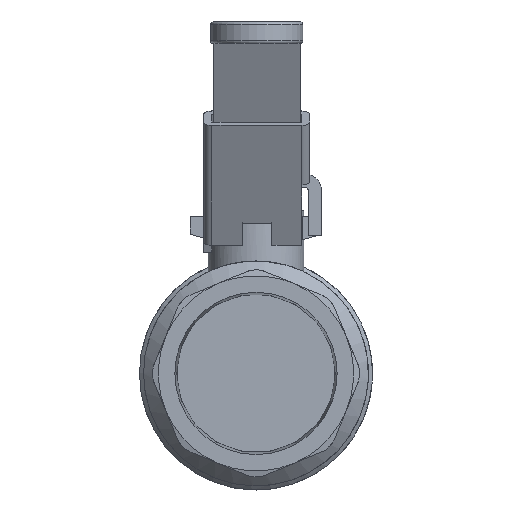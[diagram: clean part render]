
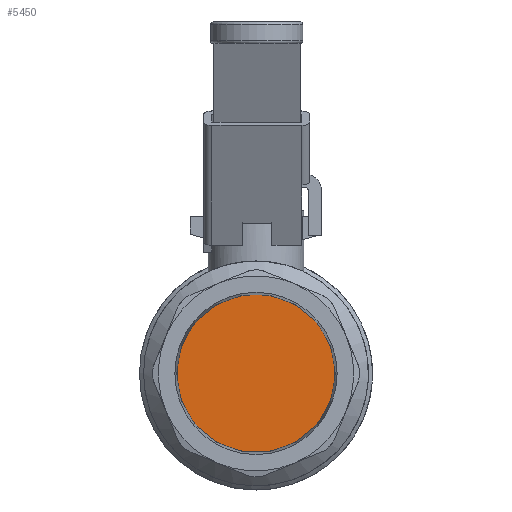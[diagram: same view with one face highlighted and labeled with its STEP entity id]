
A CAD part, left-side view. The second image highlights one B-rep face of the part: STEP entity #5450.
In plain terms, the highlighted planar face has unit normal (-1, 0, 0).
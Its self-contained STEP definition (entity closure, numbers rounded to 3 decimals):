
#5450 = ADVANCED_FACE('',(#5451),#5464,.T.);
#5451 = FACE_BOUND('',#5452,.T.);
#5452 = EDGE_LOOP('',(#5453));
#5453 = ORIENTED_EDGE('',*,*,#5454,.F.);
#5454 = EDGE_CURVE('',#5455,#5455,#5457,.T.);
#5455 = VERTEX_POINT('',#5456);
#5456 = CARTESIAN_POINT('',(0.681,0.77,0.));
#5457 = SURFACE_CURVE('',#5458,(#5463,#5479),.PCURVE_S1.);
#5458 = CIRCLE('',#5459,0.77);
#5459 = AXIS2_PLACEMENT_3D('',#5460,#5461,#5462);
#5460 = CARTESIAN_POINT('',(0.681,0.,0.));
#5461 = DIRECTION('',(1.,0.,0.));
#5462 = DIRECTION('',(-0.,1.,0.));
#5463 = PCURVE('',#5464,#5469);
#5464 = PLANE('',#5465);
#5465 = AXIS2_PLACEMENT_3D('',#5466,#5467,#5468);
#5466 = CARTESIAN_POINT('',(0.681,0.385,0.));
#5467 = DIRECTION('',(-1.,-0.,-0.));
#5468 = DIRECTION('',(-0.,1.,-0.));
#5469 = DEFINITIONAL_REPRESENTATION('',(#5470),#5478);
#5470 = ( BOUNDED_CURVE() B_SPLINE_CURVE(2,(#5471,#5472,#5473,#5474,
#5475,#5476,#5477),.UNSPECIFIED.,.T.,.F.) B_SPLINE_CURVE_WITH_KNOTS((1,2
    ,2,2,2,1),(-2.094,0.,2.094,4.189,
6.283,8.378),.UNSPECIFIED.) CURVE() 
GEOMETRIC_REPRESENTATION_ITEM() RATIONAL_B_SPLINE_CURVE((1.,0.5,1.,0.5,
1.,0.5,1.)) REPRESENTATION_ITEM('') );
#5471 = CARTESIAN_POINT('',(0.385,0.));
#5472 = CARTESIAN_POINT('',(0.385,-1.334));
#5473 = CARTESIAN_POINT('',(-0.77,-0.667));
#5474 = CARTESIAN_POINT('',(-1.926,0.));
#5475 = CARTESIAN_POINT('',(-0.77,0.667));
#5476 = CARTESIAN_POINT('',(0.385,1.334));
#5477 = CARTESIAN_POINT('',(0.385,0.));
#5478 = ( GEOMETRIC_REPRESENTATION_CONTEXT(2) 
PARAMETRIC_REPRESENTATION_CONTEXT() REPRESENTATION_CONTEXT('2D SPACE',''
  ) );
#5479 = PCURVE('',#5480,#5485);
#5480 = CONICAL_SURFACE('',#5481,0.781,0.031);
#5481 = AXIS2_PLACEMENT_3D('',#5482,#5483,#5484);
#5482 = CARTESIAN_POINT('',(50.337,0.,0.));
#5483 = DIRECTION('',(1.,0.,0.));
#5484 = DIRECTION('',(0.,-1.,0.));
#5485 = DEFINITIONAL_REPRESENTATION('',(#5486),#5490);
#5486 = LINE('',#5487,#5488);
#5487 = CARTESIAN_POINT('',(0.,-49.656));
#5488 = VECTOR('',#5489,1.);
#5489 = DIRECTION('',(1.,0.));
#5490 = ( GEOMETRIC_REPRESENTATION_CONTEXT(2) 
PARAMETRIC_REPRESENTATION_CONTEXT() REPRESENTATION_CONTEXT('2D SPACE',''
  ) );
